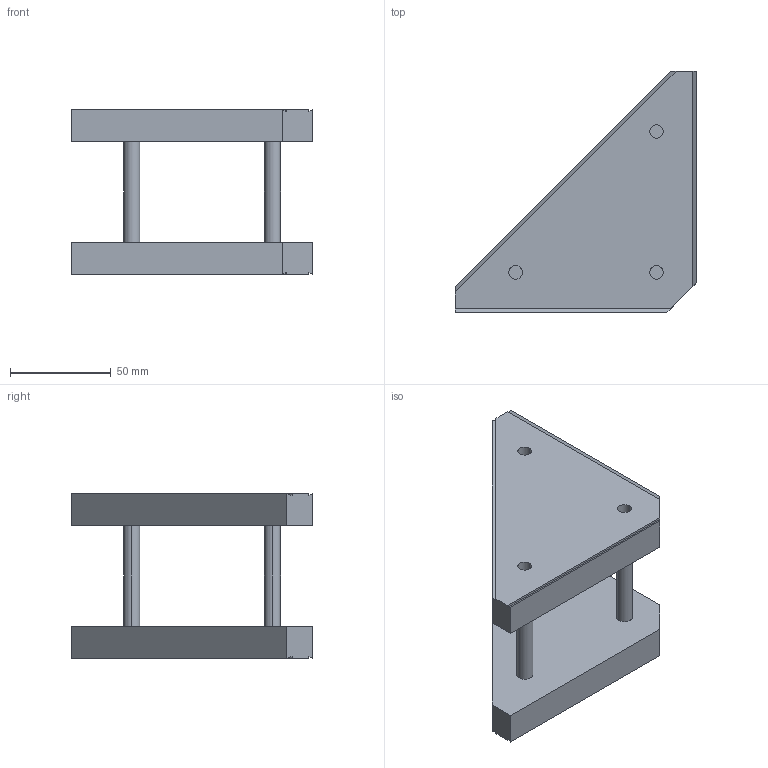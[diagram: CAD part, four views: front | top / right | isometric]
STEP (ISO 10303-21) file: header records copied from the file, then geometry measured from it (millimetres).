
FILE_DESCRIPTION (( 'STEP AP203' ), '1' );
FILE_NAME ('X-Z Verbindungsatz dL120.STEP', '2004-05-12T08:29:39', ( '' ), ( '' ), 'SwSTEP 2.0', 'SolidWorks 2003064', '' );
FILE_SCHEMA (( 'CONFIG_CONTROL_DESIGN' ));
Length unit declared in the file: millimetre
Products named in the file (1): X-Z Verbindungsatz dL120
Bounding box: 120 x 120 x 82 mm (x, y, z)
Volume: 279049 mm3; surface area: 52826.9 mm2
Topology: 1 solids, 1 shells, 43 faces, 108 edges, 72 vertices
Faces by surface type: plane 31, cylinder 12
Entity records: 1371 total; most frequent: CARTESIAN_POINT 224, DIRECTION 220, ORIENTED_EDGE 216, EDGE_CURVE 108, VECTOR 84, LINE 84, VERTEX_POINT 72, AXIS2_PLACEMENT_3D 68
